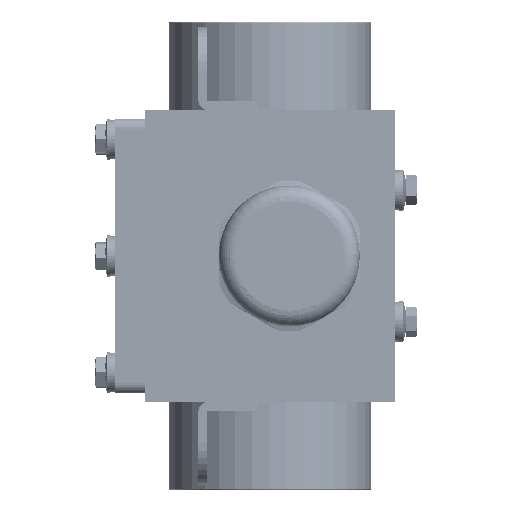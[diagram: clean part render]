
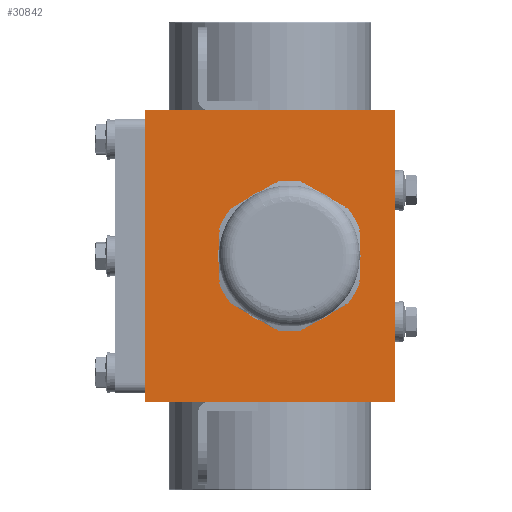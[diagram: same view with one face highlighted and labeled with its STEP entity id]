
A CAD part, left-side view. The second image highlights one B-rep face of the part: STEP entity #30842.
In plain terms, the highlighted planar face has unit normal (-1, 0, 0).
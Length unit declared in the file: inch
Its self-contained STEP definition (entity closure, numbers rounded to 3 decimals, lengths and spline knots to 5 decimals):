
#479 = VECTOR ( 'NONE', #5069, 39.37008 ) ;
#585 = AXIS2_PLACEMENT_3D ( 'NONE', #11231, #18623, #23658 ) ;
#1361 = ORIENTED_EDGE ( 'NONE', *, *, #20064, .F. ) ;
#1621 = FACE_OUTER_BOUND ( 'NONE', #14859, .T. ) ;
#1876 = LINE ( 'NONE', #9358, #6301 ) ;
#2700 = CARTESIAN_POINT ( 'NONE',  ( -7.5, 1.5, -1.75 ) ) ;
#3096 = ORIENTED_EDGE ( 'NONE', *, *, #31719, .F. ) ;
#4004 = VERTEX_POINT ( 'NONE', #27246 ) ;
#4102 = CARTESIAN_POINT ( 'NONE',  ( -7.5, -1.5, -1.75 ) ) ;
#4270 = CARTESIAN_POINT ( 'NONE',  ( -7.5, 1.5, 1.75 ) ) ;
#5069 = DIRECTION ( 'NONE',  ( 0., -1., 0. ) ) ;
#5629 = ORIENTED_EDGE ( 'NONE', *, *, #12656, .T. ) ;
#6301 = VECTOR ( 'NONE', #9683, 39.37008 ) ;
#7053 = DIRECTION ( 'NONE',  ( 0., 0., 1. ) ) ;
#7735 = LINE ( 'NONE', #30548, #479 ) ;
#9054 = ORIENTED_EDGE ( 'NONE', *, *, #31067, .F. ) ;
#9358 = CARTESIAN_POINT ( 'NONE',  ( -7.5, 1.5, 1.75 ) ) ;
#9406 = VERTEX_POINT ( 'NONE', #23207 ) ;
#9429 = FACE_BOUND ( 'NONE', #30455, .T. ) ;
#9683 = DIRECTION ( 'NONE',  ( 0., 0., 1. ) ) ;
#11231 = CARTESIAN_POINT ( 'NONE',  ( -7.5, -0.25, 0. ) ) ;
#11247 = CIRCLE ( 'NONE', #32117, 0.74803 ) ;
#11471 = EDGE_CURVE ( 'NONE', #21888, #15644, #1876, .T. ) ;
#12306 = AXIS2_PLACEMENT_3D ( 'NONE', #4270, #26753, #16670 ) ;
#12656 = EDGE_CURVE ( 'NONE', #21888, #23859, #7735, .T. ) ;
#14658 = CARTESIAN_POINT ( 'NONE',  ( -7.5, 1.5, 1.75 ) ) ;
#14859 = EDGE_LOOP ( 'NONE', ( #28480, #1361, #14957, #5629 ) ) ;
#14957 = ORIENTED_EDGE ( 'NONE', *, *, #11471, .F. ) ;
#15011 = CIRCLE ( 'NONE', #585, 0.74803 ) ;
#15644 = VERTEX_POINT ( 'NONE', #21536 ) ;
#16670 = DIRECTION ( 'NONE',  ( 0., 0., -1. ) ) ;
#17128 = CARTESIAN_POINT ( 'NONE',  ( -7.5, -0.25, 0. ) ) ;
#18366 = DIRECTION ( 'NONE',  ( 0., 0., 1. ) ) ;
#18435 = VECTOR ( 'NONE', #30089, 39.37008 ) ;
#18507 = VERTEX_POINT ( 'NONE', #30340 ) ;
#18623 = DIRECTION ( 'NONE',  ( -1., 0., 0. ) ) ;
#18899 = EDGE_CURVE ( 'NONE', #23859, #9406, #28442, .T. ) ;
#20064 = EDGE_CURVE ( 'NONE', #15644, #9406, #27430, .T. ) ;
#21536 = CARTESIAN_POINT ( 'NONE',  ( -7.5, 1.5, 1.75 ) ) ;
#21888 = VERTEX_POINT ( 'NONE', #2700 ) ;
#22323 = DIRECTION ( 'NONE',  ( -1., 0., 0. ) ) ;
#23207 = CARTESIAN_POINT ( 'NONE',  ( -7.5, -1.5, 1.75 ) ) ;
#23242 = CARTESIAN_POINT ( 'NONE',  ( -7.5, -1.5, 1.75 ) ) ;
#23658 = DIRECTION ( 'NONE',  ( 0., 0., 1. ) ) ;
#23859 = VERTEX_POINT ( 'NONE', #4102 ) ;
#26753 = DIRECTION ( 'NONE',  ( 1., 0., 0. ) ) ;
#27245 = PLANE ( 'NONE',  #12306 ) ;
#27246 = CARTESIAN_POINT ( 'NONE',  ( -7.5, -0.25, 0.74803 ) ) ;
#27430 = LINE ( 'NONE', #14658, #18435 ) ;
#28442 = LINE ( 'NONE', #23242, #31231 ) ;
#28480 = ORIENTED_EDGE ( 'NONE', *, *, #18899, .T. ) ;
#30089 = DIRECTION ( 'NONE',  ( 0., -1., 0. ) ) ;
#30340 = CARTESIAN_POINT ( 'NONE',  ( -7.5, -0.25, -0.74803 ) ) ;
#30455 = EDGE_LOOP ( 'NONE', ( #3096, #9054 ) ) ;
#30548 = CARTESIAN_POINT ( 'NONE',  ( -7.5, 1.5, -1.75 ) ) ;
#30842 = ADVANCED_FACE ( 'NONE', ( #9429, #1621 ), #27245, .F. ) ;
#31067 = EDGE_CURVE ( 'NONE', #18507, #4004, #15011, .T. ) ;
#31231 = VECTOR ( 'NONE', #18366, 39.37008 ) ;
#31719 = EDGE_CURVE ( 'NONE', #4004, #18507, #11247, .T. ) ;
#32117 = AXIS2_PLACEMENT_3D ( 'NONE', #17128, #22323, #7053 ) ;
